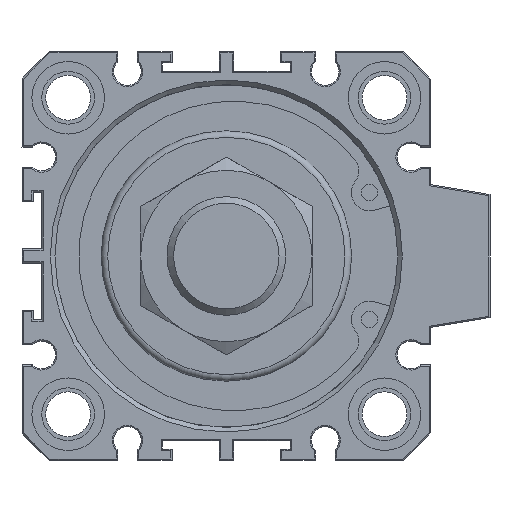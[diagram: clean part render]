
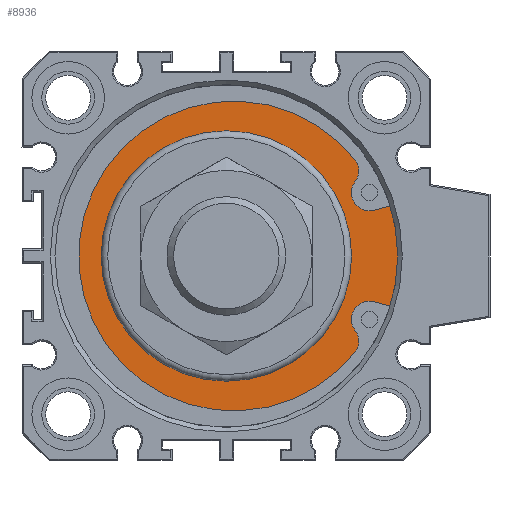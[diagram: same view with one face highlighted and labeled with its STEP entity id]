
A CAD part, front view. The second image highlights one B-rep face of the part: STEP entity #8936.
In plain terms, the highlighted planar face has unit normal (0, -1, 0).
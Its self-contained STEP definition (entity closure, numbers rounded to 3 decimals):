
#705=LINE('',#12949,#1291);
#712=LINE('',#12973,#1298);
#1291=VECTOR('',#11189,1000.);
#1298=VECTOR('',#11218,1000.);
#2893=ORIENTED_EDGE('',*,*,#3791,.T.);
#2894=ORIENTED_EDGE('',*,*,#3789,.T.);
#2895=ORIENTED_EDGE('',*,*,#3787,.T.);
#2896=ORIENTED_EDGE('',*,*,#3785,.T.);
#2897=ORIENTED_EDGE('',*,*,#3783,.T.);
#2898=ORIENTED_EDGE('',*,*,#3781,.T.);
#2899=ORIENTED_EDGE('',*,*,#3779,.T.);
#2900=ORIENTED_EDGE('',*,*,#3777,.F.);
#2901=ORIENTED_EDGE('',*,*,#3792,.T.);
#3777=EDGE_CURVE('',#4300,#4301,#4514,.T.);
#3779=EDGE_CURVE('',#4302,#4301,#705,.T.);
#3781=EDGE_CURVE('',#4303,#4302,#4515,.T.);
#3783=EDGE_CURVE('',#4304,#4303,#4516,.T.);
#3785=EDGE_CURVE('',#4305,#4304,#4517,.T.);
#3787=EDGE_CURVE('',#4306,#4305,#4518,.T.);
#3789=EDGE_CURVE('',#4307,#4306,#4519,.T.);
#3791=EDGE_CURVE('',#4300,#4307,#712,.T.);
#3792=EDGE_CURVE('',#4308,#4308,#4520,.T.);
#4300=VERTEX_POINT('',#12944);
#4301=VERTEX_POINT('',#12946);
#4302=VERTEX_POINT('',#12950);
#4303=VERTEX_POINT('',#12954);
#4304=VERTEX_POINT('',#12958);
#4305=VERTEX_POINT('',#12962);
#4306=VERTEX_POINT('',#12966);
#4307=VERTEX_POINT('',#12970);
#4308=VERTEX_POINT('',#12976);
#4514=CIRCLE('',#9499,27.5);
#4515=CIRCLE('',#9502,2.741);
#4516=CIRCLE('',#9504,2.74);
#4517=CIRCLE('',#9506,23.5);
#4518=CIRCLE('',#9508,2.741);
#4519=CIRCLE('',#9510,2.741);
#4520=CIRCLE('',#9513,19.);
#4978=EDGE_LOOP('',(#2893,#2894,#2895,#2896,#2897,#2898,#2899,#2900));
#4979=EDGE_LOOP('',(#2901));
#5456=FACE_BOUND('',#4978,.T.);
#5457=FACE_BOUND('',#4979,.T.);
#5737=PLANE('',#9512);
#8936=ADVANCED_FACE('',(#5456,#5457),#5737,.T.);
#9499=AXIS2_PLACEMENT_3D('',#12945,#11184,#11185);
#9502=AXIS2_PLACEMENT_3D('',#12953,#11193,#11194);
#9504=AXIS2_PLACEMENT_3D('',#12957,#11198,#11199);
#9506=AXIS2_PLACEMENT_3D('',#12961,#11203,#11204);
#9508=AXIS2_PLACEMENT_3D('',#12965,#11208,#11209);
#9510=AXIS2_PLACEMENT_3D('',#12969,#11213,#11214);
#9512=AXIS2_PLACEMENT_3D('',#12974,#11219,#11220);
#9513=AXIS2_PLACEMENT_3D('',#12975,#11221,#11222);
#11184=DIRECTION('',(0.,1.,0.));
#11185=DIRECTION('',(-1.,0.,0.));
#11189=DIRECTION('',(0.966,0.,-0.259));
#11193=DIRECTION('',(0.,1.,0.));
#11194=DIRECTION('',(1.,0.,0.));
#11198=DIRECTION('',(0.,-1.,0.));
#11199=DIRECTION('',(-1.,0.,0.));
#11203=DIRECTION('',(0.,-1.,0.));
#11204=DIRECTION('',(1.,0.,0.));
#11208=DIRECTION('',(0.,-1.,0.));
#11209=DIRECTION('',(-1.,0.,0.));
#11213=DIRECTION('',(0.,1.,0.));
#11214=DIRECTION('',(1.,0.,0.));
#11218=DIRECTION('',(-0.966,0.,-0.259));
#11219=DIRECTION('',(0.,-1.,0.));
#11220=DIRECTION('',(1.,0.,0.));
#11221=DIRECTION('',(0.,1.,0.));
#11222=DIRECTION('',(-1.,0.,0.));
#12944=CARTESIAN_POINT('',(26.308,4.2,8.009));
#12945=CARTESIAN_POINT('',(0.,4.2,0.));
#12946=CARTESIAN_POINT('',(26.308,4.2,-8.009));
#12949=CARTESIAN_POINT('',(22.414,4.2,-6.965));
#12950=CARTESIAN_POINT('',(22.414,4.2,-6.965));
#12953=CARTESIAN_POINT('',(21.705,4.2,-9.613));
#12954=CARTESIAN_POINT('',(19.645,4.2,-11.421));
#12957=CARTESIAN_POINT('',(17.355,4.2,-12.925));
#12958=CARTESIAN_POINT('',(19.628,4.2,-14.455));
#12961=CARTESIAN_POINT('',(1.1,4.2,0.));
#12962=CARTESIAN_POINT('',(19.628,4.2,14.455));
#12965=CARTESIAN_POINT('',(17.355,4.2,12.925));
#12966=CARTESIAN_POINT('',(19.645,4.2,11.421));
#12969=CARTESIAN_POINT('',(21.705,4.2,9.613));
#12970=CARTESIAN_POINT('',(22.414,4.2,6.965));
#12973=CARTESIAN_POINT('',(26.308,4.2,8.009));
#12974=CARTESIAN_POINT('',(0.,4.2,-27.5));
#12975=CARTESIAN_POINT('',(0.,4.2,0.));
#12976=CARTESIAN_POINT('',(-19.,4.2,0.));
